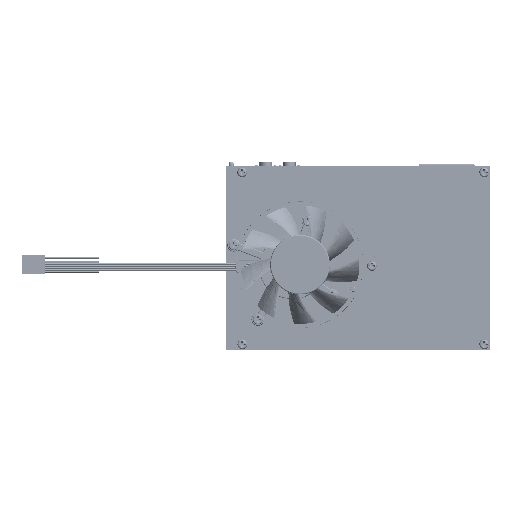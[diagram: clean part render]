
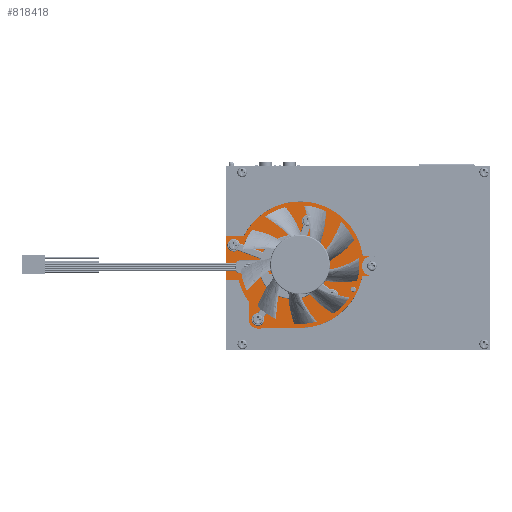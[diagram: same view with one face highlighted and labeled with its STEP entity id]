
A CAD part, front view. The second image highlights one B-rep face of the part: STEP entity #818418.
In plain terms, the highlighted planar face has unit normal (0, -1, 0) as drawn and (0, 1, 0) by its records, which use the part's own axes.
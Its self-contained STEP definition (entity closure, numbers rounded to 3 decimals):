
#792873=DIRECTION('',(1.,0.,0.));
#792874=VECTOR('',#792873,24.);
#792875=CARTESIAN_POINT('',(-8.25,7.,0.));
#792876=LINE('',#792875,#792874);
#798560=CARTESIAN_POINT('',(10.75,7.,4.28));
#798561=DIRECTION('',(0.,1.,0.));
#798562=DIRECTION('',(0.,0.,1.));
#798563=AXIS2_PLACEMENT_3D('',#798560,#798561,#798562);
#798565=CARTESIAN_POINT('',(10.75,7.,4.28));
#798566=DIRECTION('',(0.,1.,0.));
#798567=DIRECTION('',(0.,0.,-1.));
#798568=AXIS2_PLACEMENT_3D('',#798565,#798566,#798567);
#798570=CARTESIAN_POINT('',(24.09,7.,45.35));
#798571=DIRECTION('',(0.,1.,0.));
#798572=DIRECTION('',(0.,0.,1.));
#798573=AXIS2_PLACEMENT_3D('',#798570,#798571,#798572);
#798575=CARTESIAN_POINT('',(24.09,7.,45.35));
#798576=DIRECTION('',(0.,1.,0.));
#798577=DIRECTION('',(0.,0.,-1.));
#798578=AXIS2_PLACEMENT_3D('',#798575,#798576,#798577);
#798580=CARTESIAN_POINT('',(-16.98,7.,58.69));
#798581=DIRECTION('',(0.,1.,0.));
#798582=DIRECTION('',(0.,0.,1.));
#798583=AXIS2_PLACEMENT_3D('',#798580,#798581,#798582);
#798585=CARTESIAN_POINT('',(-16.98,7.,58.69));
#798586=DIRECTION('',(0.,1.,0.));
#798587=DIRECTION('',(0.,0.,-1.));
#798588=AXIS2_PLACEMENT_3D('',#798585,#798586,#798587);
#798590=CARTESIAN_POINT('',(-30.32,7.,17.63));
#798591=DIRECTION('',(0.,1.,0.));
#798592=DIRECTION('',(0.,0.,1.));
#798593=AXIS2_PLACEMENT_3D('',#798590,#798591,#798592);
#798595=CARTESIAN_POINT('',(-30.32,7.,17.63));
#798596=DIRECTION('',(0.,1.,0.));
#798597=DIRECTION('',(0.,0.,-1.));
#798598=AXIS2_PLACEMENT_3D('',#798595,#798596,#798597);
#798600=DIRECTION('',(1.,0.,0.));
#798601=VECTOR('',#798600,9.523);
#798602=CARTESIAN_POINT('',(-30.032,7.,12.638));
#798603=LINE('',#798602,#798601);
#798604=DIRECTION('',(0.,0.,1.));
#798605=VECTOR('',#798604,6.986);
#798606=CARTESIAN_POINT('',(-8.25,7.,0.));
#798607=LINE('',#798606,#798605);
#798608=DIRECTION('',(0.,0.,-1.));
#798609=VECTOR('',#798608,9.744);
#798610=CARTESIAN_POINT('',(15.75,7.,9.744));
#798611=LINE('',#798610,#798609);
#798612=DIRECTION('',(0.,0.,-1.));
#798613=VECTOR('',#798612,5.035);
#798614=CARTESIAN_POINT('',(4.734,7.,80.714));
#798615=LINE('',#798614,#798613);
#798616=CARTESIAN_POINT('',(-0.766,7.,80.714));
#798617=DIRECTION('',(0.,1.,0.));
#798618=DIRECTION('',(1.,0.,0.));
#798619=AXIS2_PLACEMENT_3D('',#798616,#798617,#798618);
#798621=CARTESIAN_POINT('',(-0.766,7.,80.714));
#798622=DIRECTION('',(0.,1.,0.));
#798623=DIRECTION('',(0.,0.,-1.));
#798624=AXIS2_PLACEMENT_3D('',#798621,#798622,#798623);
#798626=DIRECTION('',(0.,0.,1.));
#798627=VECTOR('',#798626,5.279);
#798628=CARTESIAN_POINT('',(-6.266,7.,75.435));
#798629=LINE('',#798628,#798627);
#798630=DIRECTION('',(0.014,0.,1.));
#798631=VECTOR('',#798630,23.711);
#798632=CARTESIAN_POINT('',(-35.318,7.,17.766));
#798633=LINE('',#798632,#798631);
#798634=CARTESIAN_POINT('',(-13.6,7.,70.35));
#798635=DIRECTION('',(0.,-1.,0.));
#798636=DIRECTION('',(0.,0.,1.));
#798637=AXIS2_PLACEMENT_3D('',#798634,#798635,#798636);
#798639=CARTESIAN_POINT('',(-13.6,7.,70.35));
#798640=DIRECTION('',(0.,-1.,0.));
#798641=DIRECTION('',(0.,0.,-1.));
#798642=AXIS2_PLACEMENT_3D('',#798639,#798640,#798641);
#798644=CARTESIAN_POINT('',(19.4,7.,37.35));
#798645=DIRECTION('',(0.,-1.,0.));
#798646=DIRECTION('',(0.,0.,1.));
#798647=AXIS2_PLACEMENT_3D('',#798644,#798645,#798646);
#798649=CARTESIAN_POINT('',(19.4,7.,37.35));
#798650=DIRECTION('',(0.,-1.,0.));
#798651=DIRECTION('',(0.,0.,-1.));
#798652=AXIS2_PLACEMENT_3D('',#798649,#798650,#798651);
#800691=CARTESIAN_POINT('',(0.,7.,41.));
#800692=DIRECTION('',(0.,1.,0.));
#800693=DIRECTION('',(-0.236,0.,-0.972));
#800694=AXIS2_PLACEMENT_3D('',#800691,#800692,#800693);
#800713=CARTESIAN_POINT('',(0.,7.,41.));
#800714=DIRECTION('',(0.,1.,0.));
#800715=DIRECTION('',(-1.,0.,0.014));
#800716=AXIS2_PLACEMENT_3D('',#800713,#800714,#800715);
#800765=CARTESIAN_POINT('',(0.,7.,41.));
#800766=DIRECTION('',(0.,1.,0.));
#800767=DIRECTION('',(0.135,0.,0.991));
#800768=AXIS2_PLACEMENT_3D('',#800765,#800766,#800767);
#801474=CARTESIAN_POINT('',(-30.32,7.,17.63));
#801475=DIRECTION('',(0.,1.,0.));
#801476=DIRECTION('',(0.058,0.,-0.998));
#801477=AXIS2_PLACEMENT_3D('',#801474,#801475,#801476);
#812097=CARTESIAN_POINT('',(-8.25,7.,0.));
#812098=CARTESIAN_POINT('',(15.75,7.,0.));
#812099=VERTEX_POINT('',#812097);
#812100=VERTEX_POINT('',#812098);
#812101=CARTESIAN_POINT('',(-8.25,7.,6.986));
#812102=VERTEX_POINT('',#812101);
#812103=CARTESIAN_POINT('',(15.75,7.,9.744));
#812104=VERTEX_POINT('',#812103);
#812105=CARTESIAN_POINT('',(-30.032,7.,12.638));
#812106=CARTESIAN_POINT('',(-35.318,7.,17.766));
#812107=VERTEX_POINT('',#812105);
#812108=VERTEX_POINT('',#812106);
#812109=CARTESIAN_POINT('',(-34.997,7.,41.474));
#812110=VERTEX_POINT('',#812109);
#812111=CARTESIAN_POINT('',(4.734,7.,80.714));
#812112=CARTESIAN_POINT('',(4.734,7.,75.678));
#812113=VERTEX_POINT('',#812111);
#812114=VERTEX_POINT('',#812112);
#812115=CARTESIAN_POINT('',(-6.266,7.,75.435));
#812116=CARTESIAN_POINT('',(-6.266,7.,80.714));
#812117=VERTEX_POINT('',#812115);
#812118=VERTEX_POINT('',#812116);
#812119=CARTESIAN_POINT('',(10.75,7.,5.53));
#812120=CARTESIAN_POINT('',(10.75,7.,3.03));
#812121=VERTEX_POINT('',#812119);
#812122=VERTEX_POINT('',#812120);
#812123=CARTESIAN_POINT('',(24.09,7.,46.6));
#812124=CARTESIAN_POINT('',(24.09,7.,44.1));
#812125=VERTEX_POINT('',#812123);
#812126=VERTEX_POINT('',#812124);
#812127=CARTESIAN_POINT('',(-16.98,7.,59.94));
#812128=CARTESIAN_POINT('',(-16.98,7.,57.44));
#812129=VERTEX_POINT('',#812127);
#812130=VERTEX_POINT('',#812128);
#812131=CARTESIAN_POINT('',(-30.32,7.,18.88));
#812132=CARTESIAN_POINT('',(-30.32,7.,16.38));
#812133=VERTEX_POINT('',#812131);
#812134=VERTEX_POINT('',#812132);
#812135=CARTESIAN_POINT('',(-0.766,7.,75.214));
#812136=VERTEX_POINT('',#812135);
#812137=CARTESIAN_POINT('',(-20.509,7.,12.638));
#812138=VERTEX_POINT('',#812137);
#812139=CARTESIAN_POINT('',(-13.6,7.,71.85));
#812140=CARTESIAN_POINT('',(-13.6,7.,68.85));
#812141=VERTEX_POINT('',#812139);
#812142=VERTEX_POINT('',#812140);
#812143=CARTESIAN_POINT('',(19.4,7.,38.85));
#812144=CARTESIAN_POINT('',(19.4,7.,35.85));
#812145=VERTEX_POINT('',#812143);
#812146=VERTEX_POINT('',#812144);
#818352=CARTESIAN_POINT('',(0.,7.,146.05));
#818353=DIRECTION('',(0.,1.,0.));
#818354=DIRECTION('',(0.,0.,1.));
#818355=AXIS2_PLACEMENT_3D('',#818352,#818353,#818354);
#818356=PLANE('',#818355);
#818358=ORIENTED_EDGE('',*,*,#818357,.T.);
#818360=ORIENTED_EDGE('',*,*,#818359,.F.);
#818362=ORIENTED_EDGE('',*,*,#818361,.F.);
#818363=ORIENTED_EDGE('',*,*,#812228,.T.);
#818365=ORIENTED_EDGE('',*,*,#818364,.F.);
#818367=ORIENTED_EDGE('',*,*,#818366,.F.);
#818369=ORIENTED_EDGE('',*,*,#818368,.F.);
#818371=ORIENTED_EDGE('',*,*,#818370,.T.);
#818373=ORIENTED_EDGE('',*,*,#818372,.T.);
#818375=ORIENTED_EDGE('',*,*,#818374,.F.);
#818377=ORIENTED_EDGE('',*,*,#818376,.F.);
#818379=ORIENTED_EDGE('',*,*,#818378,.F.);
#818381=ORIENTED_EDGE('',*,*,#818380,.F.);
#818382=EDGE_LOOP('',(#818358,#818360,#818362,#818363,#818365,#818367,#818369,
#818371,#818373,#818375,#818377,#818379,#818381));
#818383=FACE_OUTER_BOUND('',#818382,.F.);
#818384=ORIENTED_EDGE('',*,*,#818346,.T.);
#818385=ORIENTED_EDGE('',*,*,#818332,.T.);
#818386=EDGE_LOOP('',(#818384,#818385));
#818387=FACE_BOUND('',#818386,.F.);
#818389=ORIENTED_EDGE('',*,*,#818388,.T.);
#818391=ORIENTED_EDGE('',*,*,#818390,.T.);
#818392=EDGE_LOOP('',(#818389,#818391));
#818393=FACE_BOUND('',#818392,.F.);
#818395=ORIENTED_EDGE('',*,*,#818394,.T.);
#818397=ORIENTED_EDGE('',*,*,#818396,.T.);
#818398=EDGE_LOOP('',(#818395,#818397));
#818399=FACE_BOUND('',#818398,.F.);
#818401=ORIENTED_EDGE('',*,*,#818400,.T.);
#818403=ORIENTED_EDGE('',*,*,#818402,.T.);
#818404=EDGE_LOOP('',(#818401,#818403));
#818405=FACE_BOUND('',#818404,.F.);
#818407=ORIENTED_EDGE('',*,*,#818406,.F.);
#818409=ORIENTED_EDGE('',*,*,#818408,.F.);
#818410=EDGE_LOOP('',(#818407,#818409));
#818411=FACE_BOUND('',#818410,.F.);
#818413=ORIENTED_EDGE('',*,*,#818412,.F.);
#818415=ORIENTED_EDGE('',*,*,#818414,.F.);
#818416=EDGE_LOOP('',(#818413,#818415));
#818417=FACE_BOUND('',#818416,.F.);
#818418=ADVANCED_FACE('',(#818383,#818387,#818393,#818399,#818405,#818411,
#818417),#818356,.T.);
#798564=CIRCLE('',#798563,1.25);
#798569=CIRCLE('',#798568,1.25);
#798574=CIRCLE('',#798573,1.25);
#798579=CIRCLE('',#798578,1.25);
#798584=CIRCLE('',#798583,1.25);
#798589=CIRCLE('',#798588,1.25);
#798594=CIRCLE('',#798593,1.25);
#798599=CIRCLE('',#798598,1.25);
#798620=CIRCLE('',#798619,5.5);
#798625=CIRCLE('',#798624,5.5);
#798638=CIRCLE('',#798637,1.5);
#798643=CIRCLE('',#798642,1.5);
#798648=CIRCLE('',#798647,1.5);
#798653=CIRCLE('',#798652,1.5);
#800695=CIRCLE('',#800694,35.);
#800717=CIRCLE('',#800716,35.);
#800769=CIRCLE('',#800768,35.);
#801478=CIRCLE('',#801477,5.);
#812228=EDGE_CURVE('',#812099,#812100,#792876,.T.);
#818332=EDGE_CURVE('',#812126,#812125,#798579,.T.);
#818346=EDGE_CURVE('',#812125,#812126,#798574,.T.);
#818357=EDGE_CURVE('',#812107,#812138,#798603,.T.);
#818359=EDGE_CURVE('',#812102,#812138,#800695,.T.);
#818361=EDGE_CURVE('',#812099,#812102,#798607,.T.);
#818364=EDGE_CURVE('',#812104,#812100,#798611,.T.);
#818366=EDGE_CURVE('',#812114,#812104,#800769,.T.);
#818368=EDGE_CURVE('',#812113,#812114,#798615,.T.);
#818370=EDGE_CURVE('',#812113,#812136,#798620,.T.);
#818372=EDGE_CURVE('',#812136,#812118,#798625,.T.);
#818374=EDGE_CURVE('',#812117,#812118,#798629,.T.);
#818376=EDGE_CURVE('',#812110,#812117,#800717,.T.);
#818378=EDGE_CURVE('',#812108,#812110,#798633,.T.);
#818380=EDGE_CURVE('',#812107,#812108,#801478,.T.);
#818388=EDGE_CURVE('',#812129,#812130,#798584,.T.);
#818390=EDGE_CURVE('',#812130,#812129,#798589,.T.);
#818394=EDGE_CURVE('',#812133,#812134,#798594,.T.);
#818396=EDGE_CURVE('',#812134,#812133,#798599,.T.);
#818400=EDGE_CURVE('',#812121,#812122,#798564,.T.);
#818402=EDGE_CURVE('',#812122,#812121,#798569,.T.);
#818406=EDGE_CURVE('',#812141,#812142,#798638,.T.);
#818408=EDGE_CURVE('',#812142,#812141,#798643,.T.);
#818412=EDGE_CURVE('',#812145,#812146,#798648,.T.);
#818414=EDGE_CURVE('',#812146,#812145,#798653,.T.);
